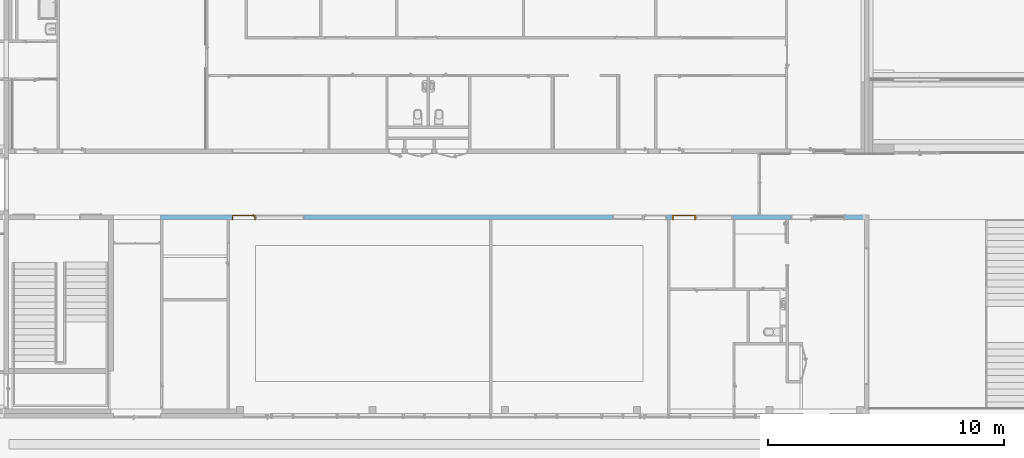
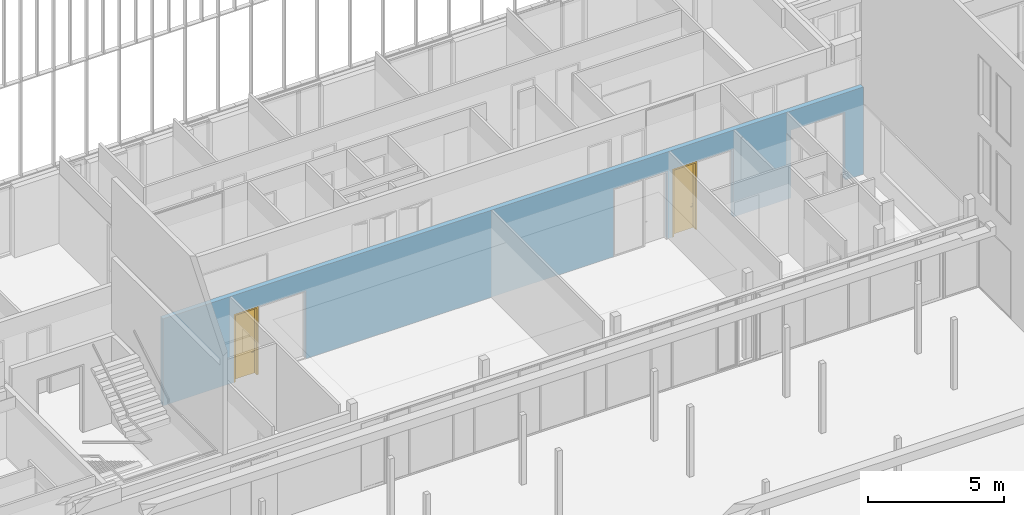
# One storey, part 149 of 240: 2 doors, 8 openings, plus 1 element that does not belong to this part.
"""IFC2X3 building model written with IfcOpenShell, lengths in centimetres."""

from ifc_helpers import new_model, entity, si_unit, converted_unit, derived_unit, direction, frame, frame_2d, origin, place, context, subcontext, project, spatial, polyline, rectangle, extrude, clip, bounded_halfspace, faceted_brep, source, transform, mapped, material, material_list, layer, layer_set, layer_usage, type_object, type_shapes, element, fill, save


model = new_model("IFC2X3")

# Units and contexts
model_context = context("Model", 3, precision=0.001, world=origin(), true_north=direction((6.12303176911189e-17, 1.0)))
body_context = subcontext(model_context, "Body", "Model", "MODEL_VIEW")
ifc_project = project(units=[si_unit("LENGTHUNIT", "METRE", prefix="CENTI"), si_unit("AREAUNIT", "SQUARE_METRE"), si_unit("VOLUMEUNIT", "CUBIC_METRE"), converted_unit("PLANEANGLEUNIT", "DEGREE", entity("IfcRatioMeasure", 0.0174532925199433), si_unit("PLANEANGLEUNIT", "RADIAN"), dimensions=[0, 0, 0, 0, 0, 0, 0]), si_unit("MASSUNIT", "GRAM", prefix="KILO"), derived_unit("MASSDENSITYUNIT", [(si_unit("MASSUNIT", "GRAM", prefix="KILO"), 1), (si_unit("LENGTHUNIT", "METRE"), -3)]), si_unit("TIMEUNIT", "SECOND"), si_unit("FREQUENCYUNIT", "HERTZ"), si_unit("THERMODYNAMICTEMPERATUREUNIT", "DEGREE_CELSIUS"), derived_unit("THERMALTRANSMITTANCEUNIT", [(si_unit("MASSUNIT", "GRAM", prefix="KILO"), 1), (si_unit("THERMODYNAMICTEMPERATUREUNIT", "KELVIN"), -1), (si_unit("TIMEUNIT", "SECOND"), -3)]), derived_unit("VOLUMETRICFLOWRATEUNIT", [(si_unit("LENGTHUNIT", "METRE"), 3), (si_unit("TIMEUNIT", "SECOND"), -1)]), si_unit("ELECTRICCURRENTUNIT", "AMPERE"), si_unit("ELECTRICVOLTAGEUNIT", "VOLT"), si_unit("POWERUNIT", "WATT"), si_unit("FORCEUNIT", "NEWTON", prefix="KILO"), si_unit("ILLUMINANCEUNIT", "LUX"), si_unit("LUMINOUSFLUXUNIT", "LUMEN"), si_unit("LUMINOUSINTENSITYUNIT", "CANDELA"), derived_unit("USERDEFINED", [(si_unit("MASSUNIT", "GRAM", prefix="KILO"), -1), (si_unit("LENGTHUNIT", "METRE"), -2), (si_unit("TIMEUNIT", "SECOND"), 3), (si_unit("LUMINOUSFLUXUNIT", "LUMEN"), 1)]), derived_unit("LINEARVELOCITYUNIT", [(si_unit("LENGTHUNIT", "METRE"), 1), (si_unit("TIMEUNIT", "SECOND"), -1)]), si_unit("PRESSUREUNIT", "PASCAL"), derived_unit("USERDEFINED", [(si_unit("LENGTHUNIT", "METRE"), -2), (si_unit("MASSUNIT", "GRAM", prefix="KILO"), 1), (si_unit("TIMEUNIT", "SECOND"), -2)])], contexts=[model_context])

# Site, building, storey
site_placement = place(None, frame((-2781.94577612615, 7442.24238424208, 0.0)))
site = spatial("IfcSite", under=ifc_project, at=site_placement, Name="Default", CompositionType="ELEMENT")
building_placement = place(site_placement, origin())
building = spatial("IfcBuilding", under=site, at=building_placement, CompositionType="ELEMENT")
storey_placement = place(building_placement, origin())
storey = spatial("IfcBuildingStorey", under=building, at=storey_placement, Name="N00 - COO", CompositionType="ELEMENT", Elevation=0.0)

# Wall, openings, doors
ifc_material_1 = material(Name="01 - Maçonnerie")
ifc_layer = layer(ifc_material_1, 20.0)
ifc_layer_set = layer_set([ifc_layer], Name="Mur de base:04 - Structure - béton - 20cm")
ifc_layer_usage = layer_usage(ifc_layer_set, "AXIS2", "NEGATIVE", 10.0)
wall_type = type_object("IfcWallType", Name="Mur de base:04 - Structure - béton - 20cm", PredefinedType="STANDARD", material=ifc_layer_set)
wall_placement = place(building_placement, frame((-7766.49987760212, -1100.0, 0.0)))
wall = element("IfcWallStandardCase", 1, at=wall_placement, inside=storey, type_object=wall_type, material=ifc_layer_usage, Name="Mur de base:04 - Structure - béton - 20cm", ObjectType="Mur de base:04 - Structure - béton - 20cm", context=body_context, shape_type="Clipping", body=[
    clip(extrude(rectangle(XDim=2974.5, YDim=19.9999999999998, at=frame_2d((1487.25, -6.21724893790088e-14), x_axis=(-1.0, 0.0))), origin(), (0.0, 0.0, 1.0), 391.0), bounded_halfspace(frame((0.0, -10.0, 391.0), z_axis=(0.0, 0.0, -1.0), x_axis=(0.0, 1.0, 0.0)), True, frame((0.0, -10.0, 391.0)), polyline([(0.0, 0.0), (10.0, 0.0), (282.0, 0.0), (292.0, 0.0), (1392.0, 0.0), (1402.0, 0.0), (2145.25, 0.0), (2155.25, 0.0), (2422.0, 0.0), (2432.0, 0.0), (2647.0, 0.0), (2657.0, 0.0), (2974.5, 0.0), (2974.5, 20.0), (2539.0, 20.0), (2529.0, 20.0), (0.0, 20.0), (0.0, 0.0)]))),
])
opening_1_placement = place(wall_placement, origin())
element("IfcOpeningElement", 2, at=opening_1_placement, cuts=wall, Name="Mur de base:04 - Structure - béton - 20cm", ObjectType="Opening", context=body_context, shape_type="SweptSolid", body=[
    extrude(rectangle(XDim=306.0, YDim=130.000000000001, at=frame_2d((0.0, 4.33431068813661e-13), x_axis=(1.0, 0.0))), frame((2832.0, -25.2400000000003, 153.0), z_axis=(0.0, 1.0, 0.0), x_axis=(0.0, 0.0, 1.0)), (0.0, 0.0, 1.0), 50.48),
])
opening_2_placement = place(wall_placement, frame((2767.0, 10.0, 0.0)))
element("IfcOpeningElement", 3, at=opening_2_placement, cuts=wall, Name="Int. Simple:PV (0.93m x 3.00m):1", ObjectType="Opening", context=body_context, shape_type="SweptSolid", body=[
    extrude(rectangle(XDim=304.500000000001, YDim=99.9999999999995, at=frame_2d((152.250000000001, 49.9999999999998), x_axis=(1.0, 0.0))), frame((0.0, 0.0, 0.0), z_axis=(0.0, -1.0, 0.0), x_axis=(0.0, 0.0, 1.0)), (0.0, 0.0, 1.0), 20.0),
])
opening_3_placement = place(wall_placement, frame((2042.0, -10.0, 0.0)))
element("IfcOpeningElement", 4, at=opening_3_placement, cuts=wall, Name="Int. Simple:PV (0.93m x 3.00m):1", ObjectType="Opening", context=body_context, shape_type="SweptSolid", body=[
    extrude(rectangle(XDim=304.500000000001, YDim=99.9999999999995, at=frame_2d((152.250000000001, 49.9999999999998), x_axis=(1.0, 0.0))), frame((0.0, 0.0, 0.0), z_axis=(0.0, 1.0, 0.0), x_axis=(0.0, 0.0, 1.0)), (0.0, 0.0, 1.0), 20.0),
])
opening_4_placement = place(wall_placement, frame((302.0, -10.0, 0.0)))
opening_4 = element("IfcOpeningElement", 5, at=opening_4_placement, cuts=wall, Name="Int. Simple:PV (0.93m x 3.00m):1", ObjectType="Opening", context=body_context, shape_type="SweptSolid", body=[
    extrude(rectangle(XDim=304.500000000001, YDim=99.9999999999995, at=frame_2d((152.250000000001, 50.0), x_axis=(1.0, 0.0))), frame((0.0, 0.0, 0.0), z_axis=(0.0, 1.0, 0.0), x_axis=(0.0, 0.0, 1.0)), (0.0, 0.0, 1.0), 20.0),
])
opening_5_placement = place(wall_placement, frame((1912.0, -10.0, 0.0)))
element("IfcOpeningElement", 6, at=opening_5_placement, cuts=wall, Name="châssis intérieur vitré:châssis intérieur vitré (h=306):1", ObjectType="Opening", context=body_context, shape_type="SweptSolid", body=[
    extrude(rectangle(XDim=306.0, YDim=130.0, at=frame_2d((153.0, 65.0), x_axis=(1.0, 0.0))), frame((0.0, 0.0, 0.0), z_axis=(0.0, 1.0, 0.0), x_axis=(0.0, 0.0, 1.0)), (0.0, 0.0, 1.0), 20.0),
])
opening_6_placement = place(wall_placement, frame((607.0, 10.0, 0.0)))
element("IfcOpeningElement", 7, at=opening_6_placement, cuts=wall, Name="châssis intérieur vitré:châssis intérieur vitré (h=306):1", ObjectType="Opening", context=body_context, shape_type="SweptSolid", body=[
    extrude(rectangle(XDim=306.0, YDim=205.0, at=frame_2d((153.0, 102.5), x_axis=(1.0, 0.0))), frame((0.0, 0.0, 0.0), z_axis=(0.0, -1.0, 0.0), x_axis=(0.0, 0.0, 1.0)), (0.0, 0.0, 1.0), 20.0),
])
opening_7_placement = place(wall_placement, frame((2421.89839761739, 10.0, 0.0)))
element("IfcOpeningElement", 8, at=opening_7_placement, cuts=wall, Name="châssis intérieur vitré:châssis intérieur vitré (h=306):1", ObjectType="Opening", context=body_context, shape_type="SweptSolid", body=[
    extrude(rectangle(XDim=306.0, YDim=156.64839761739, at=frame_2d((153.0, 78.324198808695), x_axis=(1.0, 0.0))), frame((0.0, 0.0, 0.0), z_axis=(0.0, -1.0, 0.0), x_axis=(0.0, 0.0, 1.0)), (0.0, 0.0, 1.0), 20.0),
])
opening_8_placement = place(wall_placement, frame((2165.25, -10.0, 0.0)))
opening_8 = element("IfcOpeningElement", 9, at=opening_8_placement, cuts=wall, Name="Int. Simple:PV (0.93m x 3.00m):1", ObjectType="Opening", context=body_context, shape_type="SweptSolid", body=[
    extrude(rectangle(XDim=304.500000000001, YDim=99.9999999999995, at=frame_2d((152.250000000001, 50.0), x_axis=(1.0, 0.0))), frame((0.0, 0.0, 0.0), z_axis=(0.0, 1.0, 0.0), x_axis=(0.0, 0.0, 1.0)), (0.0, 0.0, 1.0), 20.0),
])
ifc_material_2 = material(Name="Finition Peinture - Blanc satiné")
ifc_material_3 = material(Name="Bois - Panneau de porte")
ifc_material_4 = material(Name="Bois - Cadre de porte")
ifc_material_list_1 = material_list([ifc_material_2, ifc_material_3, ifc_material_4])
ifc_material_list_2 = material_list([ifc_material_2, ifc_material_3, ifc_material_4])
door_style = type_object("IfcDoorStyle", Name="PV (0.93m x 3.00m)", ConstructionType="NOTDEFINED", OperationType="SINGLE_SWING_LEFT", ParameterTakesPrecedence=False, Sizeable=False, material=ifc_material_list_2)
shared_shape = source(origin(), body_context, "Body", "Brep", [
    faceted_brep([(10.5352761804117, -0.500000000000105, 86.6003983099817), (11.5000000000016, -0.500000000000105, 87.0), (11.5000000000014, -0.500000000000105, 108.0), (10.5352761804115, -0.500000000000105, 108.399601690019), (9.50000000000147, -0.500000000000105, 108.535898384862), (8.46472381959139, -0.500000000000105, 108.399601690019), (7.50000000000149, -0.500000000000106, 108.0), (7.50000000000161, -0.500000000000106, 87.0), (8.46472381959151, -0.500000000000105, 86.6003983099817), (9.50000000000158, -0.500000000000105, 86.464101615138), (10.5352761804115, 0.0, 108.399601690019), (11.5000000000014, 0.0, 108.0), (11.5000000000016, 0.0, 87.0), (10.5352761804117, 0.0, 86.6003983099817), (9.50000000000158, 0.0, 86.464101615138), (8.46472381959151, 0.0, 86.6003983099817), (7.50000000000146, 0.0, 87.0), (7.50000000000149, 0.0, 108.0), (8.46472381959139, 0.0, 108.399601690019), (9.50000000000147, 0.0, 108.535898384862)], [[[0, 1, 2, 3, 4, 5, 6, 7, 8, 9]], [[10, 11, 12, 13, 14, 15, 16, 17, 18, 19]], [[16, 15, 8, 7]], [[8, 15, 14, 9]], [[14, 13, 0, 9]], [[13, 12, 1, 0]], [[2, 1, 12, 11]], [[11, 10, 3, 2]], [[3, 10, 19, 4]], [[19, 18, 5, 4]], [[18, 17, 6, 5]], [[7, 6, 17, 16]]]),
    faceted_brep([(10.5352761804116, 4.0, 86.6003983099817), (11.5000000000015, 4.0, 87.0), (11.5000000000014, 4.0, 108.0), (10.5352761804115, 4.0, 108.399601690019), (9.50000000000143, 4.0, 108.535898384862), (8.46472381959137, 4.0, 108.399601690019), (7.50000000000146, 4.0, 108.0), (7.50000000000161, 4.0, 87.0), (8.46472381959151, 4.0, 86.6003983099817), (9.50000000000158, 4.0, 86.464101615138), (10.5352761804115, 4.49999999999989, 108.399601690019), (11.5000000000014, 4.49999999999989, 108.0), (11.5000000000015, 4.49999999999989, 87.0), (10.5352761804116, 4.49999999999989, 86.6003983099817), (9.50000000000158, 4.49999999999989, 86.464101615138), (8.46472381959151, 4.49999999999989, 86.6003983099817), (7.50000000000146, 4.49999999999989, 87.0), (7.50000000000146, 4.49999999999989, 108.0), (8.46472381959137, 4.49999999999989, 108.399601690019), (9.50000000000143, 4.49999999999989, 108.535898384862)], [[[0, 1, 2, 3, 4, 5, 6, 7, 8, 9]], [[10, 11, 12, 13, 14, 15, 16, 17, 18, 19]], [[11, 10, 3, 2]], [[3, 10, 19, 4]], [[19, 18, 5, 4]], [[18, 17, 6, 5]], [[7, 6, 17, 16]], [[16, 15, 8, 7]], [[8, 15, 14, 9]], [[14, 13, 0, 9]], [[13, 12, 1, 0]], [[2, 1, 12, 11]]]),
    faceted_brep([(9.29747013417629, -0.500000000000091, 100.778044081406), (9.70252986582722, -0.500000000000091, 100.778044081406), (10.1000000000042, -0.500000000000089, 100.699999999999), (10.1000000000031, -0.500000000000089, 99.3000000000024), (9.7025298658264, -0.500000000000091, 99.2219559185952), (9.29747013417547, -0.500000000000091, 99.221955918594), (8.8999999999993, -0.500000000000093, 99.2999999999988), (8.89999999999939, -0.500000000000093, 100.7), (8.89999999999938, -3.26509507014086, 100.7), (9.29747013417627, -3.10045754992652, 100.778044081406), (10.9023585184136, -4.70534593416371, 100.778044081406), (11.0701397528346, -4.30028620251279, 100.778044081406), (9.7025298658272, -2.93267631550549, 100.778044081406), (10.1000000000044, -2.76803879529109, 100.7), (10.1000000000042, -2.76803879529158, 99.3000000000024), (9.7025298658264, -2.93267631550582, 99.2219559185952), (11.0701397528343, -4.30028620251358, 99.2219559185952), (10.9023585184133, -4.70534593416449, 99.221955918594), (9.29747013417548, -3.10045754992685, 99.221955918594), (8.89999999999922, -3.26509507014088, 99.2999999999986), (10.7377209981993, -5.10281606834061, 100.7), (11.2347772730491, -3.90281606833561, 100.7), (11.2347772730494, -3.90281606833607, 99.3000000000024), (10.7377209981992, -5.10281606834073, 99.2999999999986), (19.5018640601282, -5.1028160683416, 99.2999999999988), (19.5018640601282, -4.70534593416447, 99.221955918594), (19.5018640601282, -4.30028620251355, 99.2219559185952), (19.5018640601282, -3.90281606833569, 99.3000000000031), (19.5018640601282, -3.90281606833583, 100.7), (19.5018640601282, -4.30028620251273, 100.778044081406), (19.5018640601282, -4.70534593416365, 100.778044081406), (19.5018640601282, -5.10281606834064, 100.699999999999), (14.7307697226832, -5.10281606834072, 100.7), (15.2860019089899, -4.5028160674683, 100.78786867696), (15.3683206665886, -3.9028160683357, 100.7), (15.3683206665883, -3.90281606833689, 99.3000000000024), (15.2860018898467, -4.50281607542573, 99.2121313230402), (14.7307700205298, -5.10281606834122, 99.2999999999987)], [[[0, 1, 2, 3, 4, 5, 6, 7]], [[8, 9, 0, 7]], [[9, 10, 11, 12, 1, 0]], [[12, 13, 2, 1]], [[3, 2, 13, 14]], [[14, 15, 4, 3]], [[15, 16, 17, 18, 5, 4]], [[18, 19, 6, 5]], [[7, 6, 19, 8]], [[20, 10, 9, 8]], [[11, 21, 13, 12]], [[14, 13, 21, 22]], [[22, 16, 15, 14]], [[17, 23, 19, 18]], [[8, 19, 23, 20]], [[24, 25, 26, 27, 28, 29, 30, 31]], [[32, 30, 33]], [[31, 30, 32]], [[10, 20, 32]], [[33, 34, 11]], [[21, 11, 34]], [[34, 29, 28]], [[30, 29, 33]], [[29, 34, 33]], [[10, 32, 33]], [[10, 33, 11]], [[22, 21, 34, 28, 27, 35]], [[35, 26, 36]], [[37, 36, 25]], [[22, 35, 16]], [[35, 27, 26]], [[24, 37, 25]], [[23, 17, 37]], [[37, 17, 36]], [[17, 16, 36]], [[16, 35, 36]], [[25, 36, 26]], [[20, 23, 37, 24, 31, 32]]]),
    faceted_brep([(9.29747013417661, 4.49999999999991, 100.778044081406), (8.89999999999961, 4.4999999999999, 100.7), (8.89999999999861, 4.4999999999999, 99.2999999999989), (9.29747013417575, 4.49999999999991, 99.221955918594), (9.70252986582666, 4.49999999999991, 99.2219559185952), (10.1000000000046, 4.49999999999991, 99.3000000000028), (10.1000000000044, 4.49999999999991, 100.7), (9.70252986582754, 4.49999999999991, 100.778044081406), (10.1000000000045, 6.7485204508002, 99.3000000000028), (10.1000000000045, 6.74852045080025, 100.7), (9.70252986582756, 6.91315797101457, 100.778044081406), (11.083890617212, 8.29451872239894, 100.778044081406), (10.916109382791, 8.69957845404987, 100.778044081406), (9.29747013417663, 7.0809392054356, 100.778044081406), (8.89999999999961, 7.24557672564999, 100.7), (8.89999999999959, 7.2455767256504, 99.2999999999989), (9.29747013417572, 7.08093920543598, 99.221955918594), (10.9161093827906, 8.69957845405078, 99.221955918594), (11.0838906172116, 8.29451872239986, 99.2219559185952), (9.70252986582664, 6.91315797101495, 99.2219559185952), (11.2485281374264, 7.89704858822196, 99.3000000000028), (11.2485281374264, 7.89704858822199, 100.7), (10.7514718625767, 9.09704858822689, 100.7), (10.7514718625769, 9.0970485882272, 99.2999999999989), (19.5045783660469, 7.89704858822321, 99.3000000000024), (19.5045783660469, 8.29451872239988, 99.2219559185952), (19.5045783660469, 8.6995784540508, 99.221955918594), (19.5045783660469, 9.09704858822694, 99.2999999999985), (19.5045783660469, 9.09704858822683, 100.7), (19.5045783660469, 8.69957845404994, 100.778044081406), (19.5045783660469, 8.29451872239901, 100.778044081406), (19.5045783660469, 7.89704858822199, 100.7), (15.3765520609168, 7.89704858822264, 99.3000000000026), (15.3765532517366, 7.89704858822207, 100.7), (15.294234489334, 8.49704858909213, 100.78786867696), (14.7445205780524, 9.09704858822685, 100.7), (14.7445204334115, 9.09704858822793, 99.2999999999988), (15.2942345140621, 8.49704858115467, 99.2121313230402)], [[[0, 1, 2, 3, 4, 5, 6, 7]], [[6, 5, 8, 9]], [[9, 10, 7, 6]], [[10, 11, 12, 13, 0, 7]], [[13, 14, 1, 0]], [[2, 1, 14, 15]], [[15, 16, 3, 2]], [[16, 17, 18, 19, 4, 3]], [[19, 8, 5, 4]], [[9, 8, 20, 21]], [[21, 11, 10, 9]], [[12, 22, 14, 13]], [[15, 14, 22, 23]], [[23, 17, 16, 15]], [[18, 20, 8, 19]], [[24, 25, 26, 27, 28, 29, 30, 31]], [[21, 20, 32, 24, 31, 33]], [[33, 30, 34]], [[35, 34, 29]], [[21, 33, 11]], [[33, 31, 30]], [[28, 35, 29]], [[22, 12, 35]], [[35, 12, 34]], [[12, 11, 34]], [[11, 33, 34]], [[29, 34, 30]], [[22, 35, 28, 27, 36, 23]], [[36, 26, 37]], [[27, 26, 36]], [[17, 23, 36]], [[37, 32, 18]], [[20, 18, 32]], [[32, 25, 24]], [[26, 25, 37]], [[25, 32, 37]], [[17, 36, 37]], [[17, 37, 18]]]),
    faceted_brep([(3.50000000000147, 4.0, 301.0), (96.5000000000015, 4.0, 301.0), (96.5000000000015, 4.0, 0.0), (3.50000000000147, 4.0, 0.0), (3.50000000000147, 0.0, 301.0), (3.50000000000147, 0.0, 0.0), (96.5000000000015, 0.0, 0.0), (96.5000000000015, 0.0, 301.0)], [[[0, 1, 2, 3]], [[4, 5, 6, 7]], [[1, 0, 4, 7]], [[2, 1, 7, 6]], [[3, 2, 6, 5]], [[0, 3, 5, 4]]]),
    faceted_brep([(0.0, 20.0, 0.0), (-1.50000000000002, 20.0, 0.0), (-1.50000000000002, 20.5000000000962, 0.0), (5.0, 20.5000000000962, 0.0), (5.0, 4.0, 0.0), (3.50000000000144, 4.0, 0.0), (3.50000000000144, -0.500000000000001, 0.0), (-1.50000000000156, -0.500000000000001, 0.0), (-1.50000000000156, 0.0, 0.0), (0.0, 0.0, 0.0), (0.0, 20.0, 304.500000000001), (100.0, 20.0, 304.500000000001), (100.0, 20.0, 0.0), (101.5, 20.0, 0.0), (101.5, 20.0, 306.0), (-1.50000000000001, 20.0, 306.0), (-1.50000000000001, 20.5000000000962, 306.0), (101.5, 20.5000000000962, 306.0), (101.5, 20.5000000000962, 0.0), (95.0, 20.5000000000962, 0.0), (95.0, 20.5000000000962, 299.5), (5.0, 20.5000000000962, 299.5), (5.0, 4.0, 299.5), (95.0, 4.0, 299.5), (95.0, 4.0, 0.0), (96.4999999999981, 4.0, 0.0), (96.4999999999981, 4.0, 301.0), (3.50000000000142, 4.0, 301.0), (3.50000000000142, -0.500000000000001, 301.0), (96.4999999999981, -0.500000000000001, 301.0), (96.4999999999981, -0.500000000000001, 0.0), (101.500000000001, -0.500000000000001, 0.0), (101.500000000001, -0.500000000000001, 306.0), (-1.50000000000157, -0.500000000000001, 306.0), (-1.50000000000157, 0.0, 306.0), (101.500000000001, 0.0, 306.0), (101.500000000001, 0.0, 0.0), (100.0, 0.0, 0.0), (100.0, 0.0, 304.500000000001), (0.0, 0.0, 304.500000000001)], [[[0, 1, 2, 3, 4, 5, 6, 7, 8, 9]], [[1, 0, 10, 11, 12, 13, 14, 15]], [[2, 1, 15, 16]], [[3, 2, 16, 17, 18, 19, 20, 21]], [[3, 21, 22, 4]], [[5, 4, 22, 23, 24, 25, 26, 27]], [[5, 27, 28, 6]], [[7, 6, 28, 29, 30, 31, 32, 33]], [[8, 7, 33, 34]], [[9, 8, 34, 35, 36, 37, 38, 39]], [[0, 9, 39, 10]], [[11, 38, 37, 12]], [[12, 37, 36, 31, 30, 25, 24, 19, 18, 13]], [[17, 14, 13, 18]], [[23, 20, 19, 24]], [[29, 26, 25, 30]], [[35, 32, 31, 36]], [[10, 39, 38, 11]], [[16, 15, 14, 17]], [[22, 21, 20, 23]], [[28, 27, 26, 29]], [[34, 33, 32, 35]]]),
])
type_shapes(door_style, [shared_shape])
door_1_placement = place(opening_4_placement, frame((100.0, 20.0, 0.0), z_axis=(0.0, 0.0, 1.0), x_axis=(-1.0, 0.0, 0.0)))
door_1 = element("IfcDoor", 10, at=door_1_placement, inside=storey, type_object=door_style, material=ifc_material_list_1, Name="Int. Simple:PV (0.93m x 3.00m)", ObjectType="Int. Simple:PV (0.93m x 3.00m)", OverallHeight=304.500000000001, OverallWidth=99.9999999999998, context=body_context, shape_type="MappedRepresentation", body=[
    mapped(shared_shape, transform((0.0, 0.0, 0.0), scale=1.0)),
])
fill(opening_4, door_1)
ifc_material_list_3 = material_list([ifc_material_2, ifc_material_3, ifc_material_4])
door_2_placement = place(opening_8_placement, frame((100.0, 20.0, 0.0), z_axis=(0.0, 0.0, 1.0), x_axis=(-1.0, 0.0, 0.0)))
door_2 = element("IfcDoor", 11, at=door_2_placement, inside=storey, type_object=door_style, material=ifc_material_list_3, Name="Int. Simple:PV (0.93m x 3.00m)", ObjectType="Int. Simple:PV (0.93m x 3.00m)", OverallHeight=304.500000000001, OverallWidth=99.9999999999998, context=body_context, shape_type="MappedRepresentation", body=[
    mapped(shared_shape, transform((0.0, 0.0, 0.0), scale=1.0)),
])
fill(opening_8, door_2)

save(model, "model.ifc")
